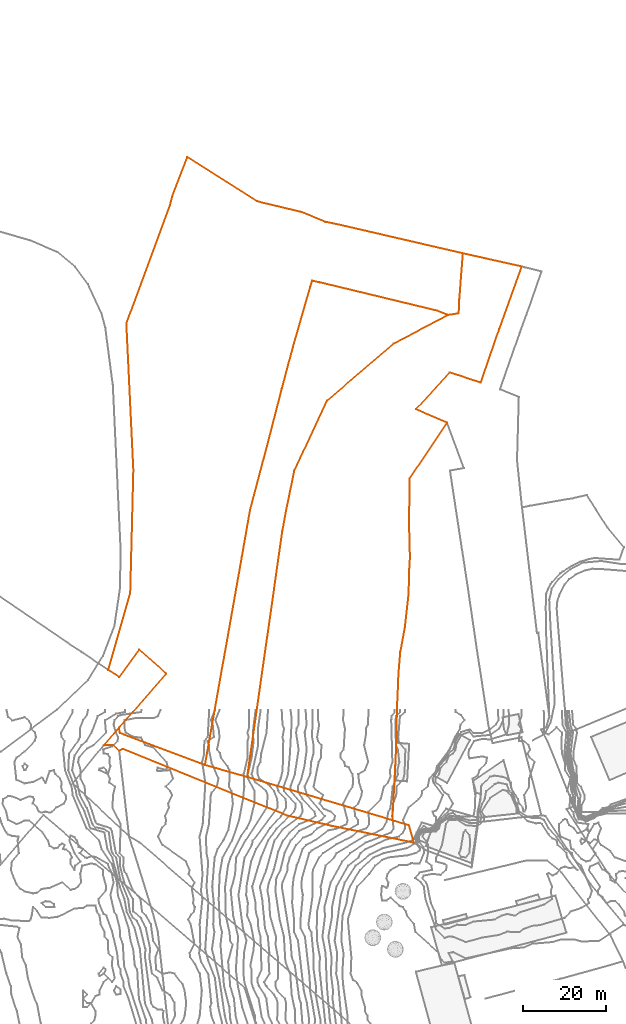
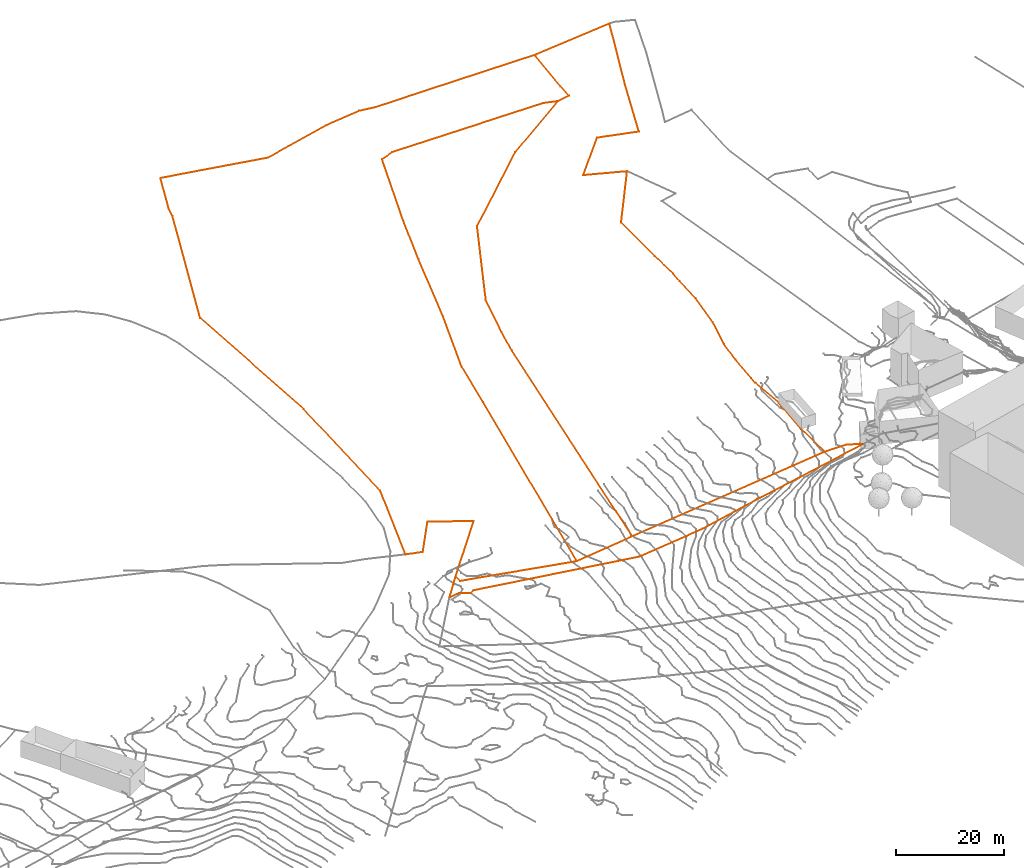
# Not in any storey, part 350 of 419: 4 proxies.
"""IFC2X3 model written with IfcOpenShell, lengths in metres."""

from ifc_helpers import new_model, entity, si_unit, frame, origin_with_axes, place, context, subcontext, project, element, save


model = new_model("IFC2X3")

# Units and contexts
model_context = context("Model", 3, precision=1e-05, world=origin_with_axes())
body_context = subcontext(model_context, "Body", "Model", "MODEL_VIEW")
ifc_project = project(units=[si_unit("AREAUNIT", "SQUARE_METRE"), si_unit("LENGTHUNIT", "METRE")], contexts=[model_context])

# Proxies
proxy_1_placement = place(None, frame((767.4420204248, 1019.1176909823, 77.4217619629), z_axis=(0.0, 0.0, 1.0), x_axis=(1.0, 0.0, 0.0)))
element("IfcBuildingElementProxy", 1, at=proxy_1_placement, Name="Cadastre 86", ObjectType="NOTDEFINED", context=body_context, shape_type="GeometricCurveSet", body=[
    entity("IfcGeometricCurveSet", [entity("IfcPolyline", [entity("IfcCartesianPoint", [0.0, 0.0, 0.0]), entity("IfcCartesianPoint", [8.8500000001, 49.9199999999, 2.4632386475]), entity("IfcCartesianPoint", [10.8500000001, 61.3300000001, 2.8862397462]), entity("IfcCartesianPoint", [14.1800000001, 73.9199999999, 5.3141392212]), entity("IfcCartesianPoint", [18.4700000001, 90.46, 6.7354398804]), entity("IfcCartesianPoint", [21.16, 100.6000000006, 8.0838380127]), entity("IfcCartesianPoint", [25.3100000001, 114.9400000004, 10.4914384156]), entity("IfcCartesianPoint", [25.77, 116.5100000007, 10.8456368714]), entity("IfcCartesianPoint", [27.7000000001, 116.1200000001, 12.0347375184]), entity("IfcCartesianPoint", [55.91, 109.29, 17.3358396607]), entity("IfcCartesianPoint", [58.49, 108.29, 17.4952380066]), entity("IfcCartesianPoint", [45.38, 101.3800000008, 14.7307413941]), entity("IfcCartesianPoint", [29.3500000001, 87.6699999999, 11.9982392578]), entity("IfcCartesianPoint", [21.5, 70.8300000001, 8.2742371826]), entity("IfcCartesianPoint", [19.63, 61.7800000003, 7.3074396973]), entity("IfcCartesianPoint", [18.6000000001, 56.1800000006, 6.7952397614]), entity("IfcCartesianPoint", [10.16, -2.8699999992, 3.7860206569]), entity("IfcCartesianPoint", [0.0, 0.0, 0.0])])]),
])
proxy_2_placement = place(None, frame((744.1520204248, 1041.9976909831, 73.2195993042), z_axis=(0.0, 0.0, 1.0), x_axis=(1.0, 0.0, 0.0)))
element("IfcBuildingElementProxy", 2, at=proxy_2_placement, Name="Cadastre 87", ObjectType="NOTDEFINED", context=body_context, shape_type="GeometricCurveSet", body=[
    entity("IfcGeometricCurveSet", [entity("IfcPolyline", [entity("IfcCartesianPoint", [2.62, -13.8800000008, 2.4644825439]), entity("IfcCartesianPoint", [13.98, -0.8900000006, 3.1713990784]), entity("IfcCartesianPoint", [7.48, 4.8799999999, 1.7688040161]), entity("IfcCartesianPoint", [2.6799999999, -1.7000000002, 0.6443984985]), entity("IfcCartesianPoint", [0.0, 0.0, 0.0]), entity("IfcCartesianPoint", [5.33, 18.5899999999, 1.2705010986]), entity("IfcCartesianPoint", [6.08, 48.1599999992, 1.4276028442]), entity("IfcCartesianPoint", [4.39, 83.4099999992, 1.1669042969]), entity("IfcCartesianPoint", [14.88, 111.7999999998, 3.2448007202]), entity("IfcCartesianPoint", [15.46, 114.1699999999, 3.2502018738]), entity("IfcCartesianPoint", [19.0299999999, 123.4199999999, 3.2858004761]), entity("IfcCartesianPoint", [35.7799999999, 112.75, 8.4816020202]), entity("IfcCartesianPoint", [46.5299999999, 110.1699999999, 13.5016988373]), entity("IfcCartesianPoint", [52.3199999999, 107.7899999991, 16.2348025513]), entity("IfcCartesianPoint", [55.45, 107.1599999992, 16.3565003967]), entity("IfcCartesianPoint", [85.36, 100.2199999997, 21.8572024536]), entity("IfcCartesianPoint", [85.2999999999, 99.7399999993, 21.8548023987]), entity("IfcCartesianPoint", [84.49, 89.0899999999, 21.8224016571]), entity("IfcCartesianPoint", [84.34, 85.8099999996, 21.8194013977]), entity("IfcCartesianPoint", [81.7799999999, 85.4099999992, 21.6974006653]), entity("IfcCartesianPoint", [79.2, 86.4099999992, 21.5380023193]), entity("IfcCartesianPoint", [50.99, 93.2399999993, 16.236900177]), entity("IfcCartesianPoint", [49.0599999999, 93.6299999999, 15.04779953]), entity("IfcCartesianPoint", [48.6, 92.0599999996, 14.6936010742]), entity("IfcCartesianPoint", [44.45, 77.7199999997, 12.2860006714]), entity("IfcCartesianPoint", [41.76, 67.5799999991, 10.9376025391]), entity("IfcCartesianPoint", [37.47, 51.0399999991, 9.5163018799]), entity("IfcCartesianPoint", [34.14, 38.4499999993, 7.0884024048]), entity("IfcCartesianPoint", [32.14, 27.0399999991, 6.6654013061]), entity("IfcCartesianPoint", [23.2899999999, -22.8800000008, 4.2021626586]), entity("IfcCartesianPoint", [2.8199999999, -15.1700000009, 2.2269777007]), entity("IfcCartesianPoint", [2.62, -13.8800000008, 2.4644825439])])]),
])
proxy_3_placement = place(None, frame((743.0320204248, 1023.8576909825, 74.9528387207), z_axis=(0.0, 0.0, 1.0), x_axis=(1.0, 0.0, 0.0)))
element("IfcBuildingElementProxy", 3, at=proxy_3_placement, Name="Cadastre 88", ObjectType="NOTDEFINED", context=body_context, shape_type="GeometricCurveSet", body=[
    entity("IfcGeometricCurveSet", [entity("IfcPolyline", [entity("IfcCartesianPoint", [0.0, 0.0, 0.0]), entity("IfcCartesianPoint", [3.74, 4.2599999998, 0.7312431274]), entity("IfcCartesianPoint", [3.9399999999, 2.9699999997, 0.4937382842]), entity("IfcCartesianPoint", [24.4099999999, -4.7400000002, 2.4689232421]), entity("IfcCartesianPoint", [34.5699999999, -7.6099999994, 6.254943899]), entity("IfcCartesianPoint", [69.49, -18.0099999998, 19.3805907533]), entity("IfcCartesianPoint", [73.5399999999, -19.2599999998, 20.3319198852]), entity("IfcCartesianPoint", [74.6599999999, -23.4100000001, 22.5860621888]), entity("IfcCartesianPoint", [54.8999999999, -19.3700000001, 14.8760918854]), entity("IfcCartesianPoint", [44.23, -16.8899999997, 10.2033406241]), entity("IfcCartesianPoint", [33.1899999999, -12.4900000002, 5.0954408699]), entity("IfcCartesianPoint", [4.6, -0.8300000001, 0.4491717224]), entity("IfcCartesianPoint", [3.7999999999, -1.3099999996, 0.3936622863]), entity("IfcCartesianPoint", [2.1599999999, 0.1200000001, 0.1268425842]), entity("IfcCartesianPoint", [0.0, 0.0, 0.0])])]),
])
proxy_4_placement = place(None, frame((777.6020204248, 1016.2476909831, 81.2077826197), z_axis=(0.0, 0.0, 1.0), x_axis=(1.0, 0.0, 0.0)))
element("IfcBuildingElementProxy", 4, at=proxy_4_placement, Name="Cadastre 90", ObjectType="NOTDEFINED", context=body_context, shape_type="GeometricCurveSet", body=[
    entity("IfcGeometricCurveSet", [entity("IfcPolyline", [entity("IfcCartesianPoint", [48.09, 85.25, 13.6972184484]), entity("IfcCartesianPoint", [39.03, 71.7599999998, 13.4522210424]), entity("IfcCartesianPoint", [39.0, 59.3699999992, 13.4522210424]), entity("IfcCartesianPoint", [39.17, 52.7599999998, 13.4522210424]), entity("IfcCartesianPoint", [39.0, 50.0299999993, 13.4522210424]), entity("IfcCartesianPoint", [38.84, 43.9499999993, 13.4117204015]), entity("IfcCartesianPoint", [37.95, 36.0399999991, 13.1490166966]), entity("IfcCartesianPoint", [36.84, 30.0099999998, 12.2277158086]), entity("IfcCartesianPoint", [36.41, 24.9799999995, 11.8708183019]), entity("IfcCartesianPoint", [36.15, 18.6999999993, 11.6550198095]), entity("IfcCartesianPoint", [36.0600000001, 17.2199999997, 11.5803203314]), entity("IfcCartesianPoint", [35.89, 8.2599999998, 12.5662964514]), entity("IfcCartesianPoint", [35.46, -0.8900000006, 12.2993794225]), entity("IfcCartesianPoint", [34.92, -10.4000000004, 13.1256468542]), entity("IfcCartesianPoint", [0.0, 0.0, 0.0]), entity("IfcCartesianPoint", [8.4400000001, 59.0499999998, 3.0092191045]), entity("IfcCartesianPoint", [9.47, 64.6499999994, 3.5214190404]), entity("IfcCartesianPoint", [11.34, 73.6999999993, 4.4882165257]), entity("IfcCartesianPoint", [19.1900000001, 90.5399999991, 8.2122186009]), entity("IfcCartesianPoint", [35.22, 104.25, 10.9447207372]), entity("IfcCartesianPoint", [48.33, 111.1599999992, 13.7092173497]), entity("IfcCartesianPoint", [50.89, 111.5599999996, 13.8312180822]), entity("IfcCartesianPoint", [51.04, 114.8399999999, 13.8342183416]), entity("IfcCartesianPoint", [51.85, 125.4899999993, 13.8666190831]), entity("IfcCartesianPoint", [51.91, 125.9699999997, 13.8690191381]), entity("IfcCartesianPoint", [66.04, 122.8299999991, 17.9227200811]), entity("IfcCartesianPoint", [60.64, 107.8199999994, 15.3597192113]), entity("IfcCartesianPoint", [56.1800000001, 94.8899999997, 13.9641159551]), entity("IfcCartesianPoint", [48.67, 97.3399999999, 13.7262157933]), entity("IfcCartesianPoint", [40.6, 88.46, 13.4949208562]), entity("IfcCartesianPoint", [48.09, 85.25, 13.6972184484])])]),
])

save(model, "model.ifc")
